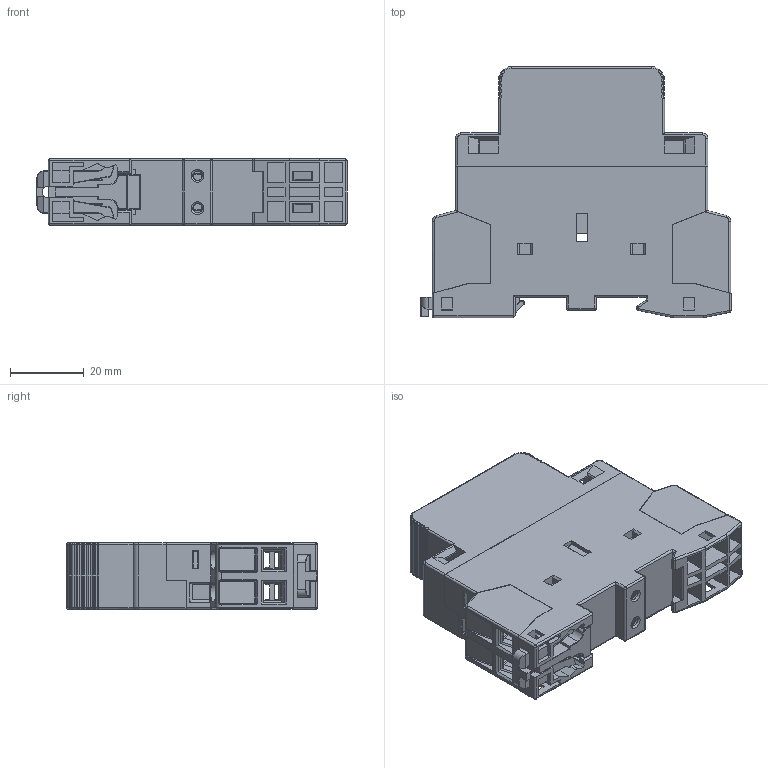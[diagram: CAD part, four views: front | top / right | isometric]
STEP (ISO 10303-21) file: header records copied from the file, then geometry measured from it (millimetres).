
FILE_DESCRIPTION((''),'2;1');
FILE_NAME('2TZD_401_6000_SW0001','2022-04-29T',('zhaoqingqing'),(''),'PRO/ENGINEER BY PARAMETRIC TECHNOLOGY CORPORATION, 2017170','PRO/ENGINEER BY PARAMETRIC TECHNOLOGY CORPORATION, 2017170','');
FILE_SCHEMA(('CONFIG_CONTROL_DESIGN'));
Products named in the file (1): 2TZD_401_6000_SW0001
Bounding box: 84 x 68.05 x 18 mm (x, y, z)
Volume: 27091.3 mm3; surface area: 42796.9 mm2
Topology: 3 solids, 3 shells, 2899 faces, 7906 edges, 5025 vertices
Faces by surface type: plane 1920, cylinder 627, torus 116, extrusion 73, sphere 71, cone 46, bspline 46
Entity records: 96793 total; most frequent: CARTESIAN_POINT 23996, ORIENTED_EDGE 15812, DIRECTION 14121, EDGE_CURVE 7906, VECTOR 6139, LINE 6066, VERTEX_POINT 5025, AXIS2_PLACEMENT_3D 3991
